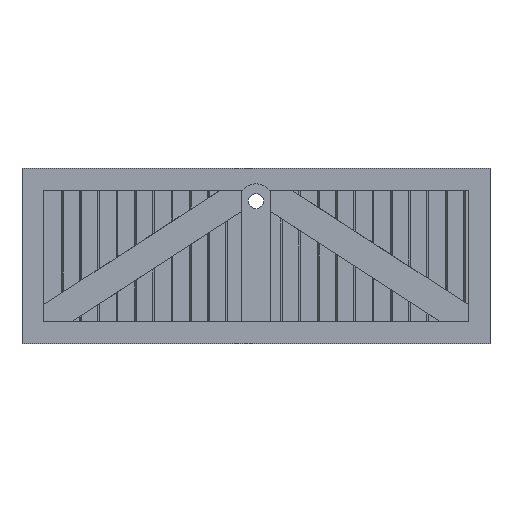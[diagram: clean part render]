
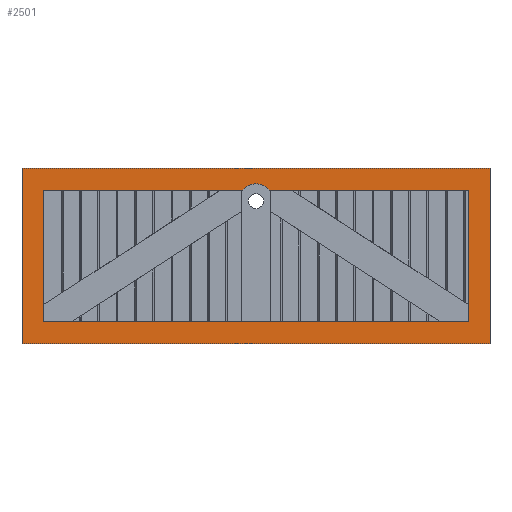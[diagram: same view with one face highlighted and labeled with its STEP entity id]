
A CAD part, top view. The second image highlights one B-rep face of the part: STEP entity #2501.
In plain terms, the highlighted planar face has unit normal (0, 0, 1).
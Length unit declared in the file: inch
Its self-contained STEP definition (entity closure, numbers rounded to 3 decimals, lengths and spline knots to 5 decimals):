
#32 = ORIENTED_EDGE ( 'NONE', *, *, #1327, .F. ) ;
#45 = ORIENTED_EDGE ( 'NONE', *, *, #261, .F. ) ;
#88 = VECTOR ( 'NONE', #4002, 39.37008 ) ;
#106 = PLANE ( 'NONE',  #1038 ) ;
#150 = ORIENTED_EDGE ( 'NONE', *, *, #1207, .F. ) ;
#261 = EDGE_CURVE ( 'NONE', #2576, #2397, #3886, .T. ) ;
#310 = FACE_BOUND ( 'NONE', #3239, .T. ) ;
#375 = CARTESIAN_POINT ( 'NONE',  ( -4., 3., 2.5 ) ) ;
#391 = VERTEX_POINT ( 'NONE', #3479 ) ;
#410 = LINE ( 'NONE', #2869, #1696 ) ;
#440 = CARTESIAN_POINT ( 'NONE',  ( -4., 3., 2.5 ) ) ;
#458 = CARTESIAN_POINT ( 'NONE',  ( -4., 0., 2.5 ) ) ;
#525 = EDGE_CURVE ( 'NONE', #2397, #579, #410, .T. ) ;
#579 = VERTEX_POINT ( 'NONE', #1074 ) ;
#807 = DIRECTION ( 'NONE',  ( 1., 0., 0. ) ) ;
#949 = LINE ( 'NONE', #2976, #1334 ) ;
#965 = ORIENTED_EDGE ( 'NONE', *, *, #3304, .F. ) ;
#1038 = AXIS2_PLACEMENT_3D ( 'NONE', #440, #1189, #2184 ) ;
#1041 = CARTESIAN_POINT ( 'NONE',  ( 0.2281, 2.625, 2.5 ) ) ;
#1048 = VECTOR ( 'NONE', #3747, 39.37008 ) ;
#1074 = CARTESIAN_POINT ( 'NONE',  ( -3.625, 0.375, 2.5 ) ) ;
#1078 = DIRECTION ( 'NONE',  ( 0., 0., 1. ) ) ;
#1095 = CARTESIAN_POINT ( 'NONE',  ( -3.625, 2.625, 2.5 ) ) ;
#1108 = CIRCLE ( 'NONE', #2857, 0.29528 ) ;
#1168 = FACE_OUTER_BOUND ( 'NONE', #2199, .T. ) ;
#1189 = DIRECTION ( 'NONE',  ( 0., 0., -1. ) ) ;
#1207 = EDGE_CURVE ( 'NONE', #4111, #391, #3273, .T. ) ;
#1223 = LINE ( 'NONE', #4276, #3959 ) ;
#1327 = EDGE_CURVE ( 'NONE', #1702, #3584, #1223, .T. ) ;
#1334 = VECTOR ( 'NONE', #3696, 39.37008 ) ;
#1341 = CARTESIAN_POINT ( 'NONE',  ( -4., 0., 2.5 ) ) ;
#1379 = CARTESIAN_POINT ( 'NONE',  ( 4., 0., 2.5 ) ) ;
#1432 = DIRECTION ( 'NONE',  ( 1., 0., 0. ) ) ;
#1492 = ORIENTED_EDGE ( 'NONE', *, *, #2294, .F. ) ;
#1531 = CARTESIAN_POINT ( 'NONE',  ( -0.2281, 2.625, 2.5 ) ) ;
#1659 = VERTEX_POINT ( 'NONE', #1341 ) ;
#1696 = VECTOR ( 'NONE', #2808, 39.37008 ) ;
#1702 = VERTEX_POINT ( 'NONE', #2389 ) ;
#1754 = DIRECTION ( 'NONE',  ( 0., -1., 0. ) ) ;
#1865 = EDGE_CURVE ( 'NONE', #579, #4111, #4565, .T. ) ;
#1941 = EDGE_CURVE ( 'NONE', #1659, #3584, #2505, .T. ) ;
#1987 = LINE ( 'NONE', #4616, #4011 ) ;
#2177 = CARTESIAN_POINT ( 'NONE',  ( -3.625, 0.375, 2.5 ) ) ;
#2184 = DIRECTION ( 'NONE',  ( -1., 0., 0. ) ) ;
#2191 = VECTOR ( 'NONE', #2219, 39.37008 ) ;
#2199 = EDGE_LOOP ( 'NONE', ( #2953, #32, #965, #3872 ) ) ;
#2219 = DIRECTION ( 'NONE',  ( -1., 0., 0. ) ) ;
#2244 = DIRECTION ( 'NONE',  ( 0., -1., 0. ) ) ;
#2261 = CARTESIAN_POINT ( 'NONE',  ( 3.625, 0.375, 2.5 ) ) ;
#2294 = EDGE_CURVE ( 'NONE', #3003, #2576, #1108, .T. ) ;
#2389 = CARTESIAN_POINT ( 'NONE',  ( 4., 3., 2.5 ) ) ;
#2397 = VERTEX_POINT ( 'NONE', #1095 ) ;
#2494 = EDGE_CURVE ( 'NONE', #3595, #1659, #1987, .T. ) ;
#2501 = ADVANCED_FACE ( 'NONE', ( #310, #1168 ), #106, .F. ) ;
#2505 = LINE ( 'NONE', #458, #88 ) ;
#2510 = CARTESIAN_POINT ( 'NONE',  ( 0., 2.4375, 2.5 ) ) ;
#2565 = EDGE_CURVE ( 'NONE', #391, #3003, #949, .T. ) ;
#2576 = VERTEX_POINT ( 'NONE', #1531 ) ;
#2808 = DIRECTION ( 'NONE',  ( 0., -1., 0. ) ) ;
#2857 = AXIS2_PLACEMENT_3D ( 'NONE', #2510, #1078, #1432 ) ;
#2869 = CARTESIAN_POINT ( 'NONE',  ( -3.625, 0.375, 2.5 ) ) ;
#2953 = ORIENTED_EDGE ( 'NONE', *, *, #1941, .T. ) ;
#2976 = CARTESIAN_POINT ( 'NONE',  ( -3.625, 2.625, 2.5 ) ) ;
#3003 = VERTEX_POINT ( 'NONE', #1041 ) ;
#3056 = DIRECTION ( 'NONE',  ( 0., 1., 0. ) ) ;
#3239 = EDGE_LOOP ( 'NONE', ( #1492, #4277, #150, #4471, #3530, #45 ) ) ;
#3273 = LINE ( 'NONE', #4473, #3994 ) ;
#3304 = EDGE_CURVE ( 'NONE', #3595, #1702, #4225, .T. ) ;
#3479 = CARTESIAN_POINT ( 'NONE',  ( 3.625, 2.625, 2.5 ) ) ;
#3530 = ORIENTED_EDGE ( 'NONE', *, *, #525, .F. ) ;
#3584 = VERTEX_POINT ( 'NONE', #1379 ) ;
#3595 = VERTEX_POINT ( 'NONE', #375 ) ;
#3626 = VECTOR ( 'NONE', #807, 39.37008 ) ;
#3696 = DIRECTION ( 'NONE',  ( -1., 0., 0. ) ) ;
#3747 = DIRECTION ( 'NONE',  ( 1., 0., 0. ) ) ;
#3872 = ORIENTED_EDGE ( 'NONE', *, *, #2494, .T. ) ;
#3886 = LINE ( 'NONE', #3973, #2191 ) ;
#3959 = VECTOR ( 'NONE', #1754, 39.37008 ) ;
#3973 = CARTESIAN_POINT ( 'NONE',  ( -3.625, 2.625, 2.5 ) ) ;
#3994 = VECTOR ( 'NONE', #3056, 39.37008 ) ;
#4002 = DIRECTION ( 'NONE',  ( 1., 0., 0. ) ) ;
#4011 = VECTOR ( 'NONE', #2244, 39.37008 ) ;
#4111 = VERTEX_POINT ( 'NONE', #2261 ) ;
#4139 = CARTESIAN_POINT ( 'NONE',  ( -4., 3., 2.5 ) ) ;
#4225 = LINE ( 'NONE', #4139, #1048 ) ;
#4277 = ORIENTED_EDGE ( 'NONE', *, *, #2565, .F. ) ;
#4276 = CARTESIAN_POINT ( 'NONE',  ( 4., 3., 2.5 ) ) ;
#4471 = ORIENTED_EDGE ( 'NONE', *, *, #1865, .F. ) ;
#4473 = CARTESIAN_POINT ( 'NONE',  ( 3.625, 0.375, 2.5 ) ) ;
#4565 = LINE ( 'NONE', #2177, #3626 ) ;
#4616 = CARTESIAN_POINT ( 'NONE',  ( -4., 3., 2.5 ) ) ;
